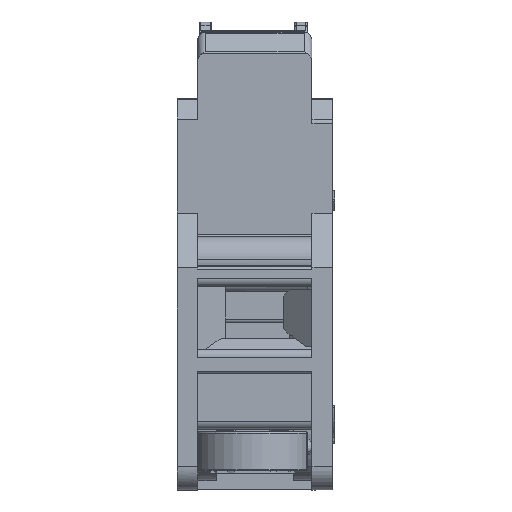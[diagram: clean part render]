
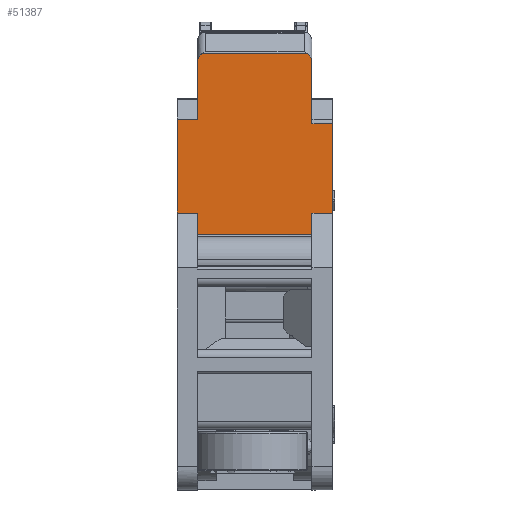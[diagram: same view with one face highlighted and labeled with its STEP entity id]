
A CAD part, left-side view. The second image highlights one B-rep face of the part: STEP entity #51387.
In plain terms, the highlighted planar face has unit normal (-1, 0, 0).
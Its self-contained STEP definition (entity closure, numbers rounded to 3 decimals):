
#455 = CARTESIAN_POINT ( 'NONE',  ( -22.144, -3.369, 35.78 ) ) ;
#809 = CARTESIAN_POINT ( 'NONE',  ( -22.144, -10.669, 35.777 ) ) ;
#1107 = CARTESIAN_POINT ( 'NONE',  ( -22.144, -10.669, 32.054 ) ) ;
#1110 = ORIENTED_EDGE ( 'NONE', *, *, #46424, .F. ) ;
#1738 = ORIENTED_EDGE ( 'NONE', *, *, #33589, .T. ) ;
#2279 = VERTEX_POINT ( 'NONE', #40409 ) ;
#2623 = AXIS2_PLACEMENT_3D ( 'NONE', #52081, #15078, #20722 ) ;
#2630 = DIRECTION ( 'NONE',  ( 0., -1., 0. ) ) ;
#3166 = LINE ( 'NONE', #57440, #6859 ) ;
#3178 = VERTEX_POINT ( 'NONE', #69064 ) ;
#4196 = CARTESIAN_POINT ( 'NONE',  ( -22.144, -12.229, 26.054 ) ) ;
#4233 = EDGE_CURVE ( 'NONE', #24097, #10851, #13212, .T. ) ;
#4670 = CARTESIAN_POINT ( 'NONE',  ( -22.144, -3.474, 36.042 ) ) ;
#5028 = CARTESIAN_POINT ( 'NONE',  ( -22.144, -3.511, 36.104 ) ) ;
#5360 = CARTESIAN_POINT ( 'NONE',  ( -22.144, -3.456, 36.008 ) ) ;
#6230 = CARTESIAN_POINT ( 'NONE',  ( -22.144, -3.369, 32.054 ) ) ;
#6702 = VERTEX_POINT ( 'NONE', #42897 ) ;
#6859 = VECTOR ( 'NONE', #52519, 1000. ) ;
#7331 = LINE ( 'NONE', #65863, #15584 ) ;
#7351 = CARTESIAN_POINT ( 'NONE',  ( -22.144, -10.669, 35.611 ) ) ;
#7855 = DIRECTION ( 'NONE',  ( 0., 0., -1. ) ) ;
#9076 = FACE_OUTER_BOUND ( 'NONE', #13271, .T. ) ;
#9504 = LINE ( 'NONE', #4196, #54012 ) ;
#10309 = CARTESIAN_POINT ( 'NONE',  ( -22.144, -3.496, 36.08 ) ) ;
#10851 = VERTEX_POINT ( 'NONE', #66736 ) ;
#11008 = CARTESIAN_POINT ( 'NONE',  ( -22.145, -3.411, 35.907 ) ) ;
#11163 = DIRECTION ( 'NONE',  ( 0., 0., -1. ) ) ;
#13104 = B_SPLINE_CURVE_WITH_KNOTS ( 'NONE', 3,
 ( #16312, #455, #11008, #37095, #5360, #58591, #4670, #10309, #5028, #68828, #63880, #37816 ),
 .UNSPECIFIED., .F., .F.,
 ( 4, 2, 2, 2, 2, 4 ),
 ( 0., 0.5, 0.562, 0.625, 0.75, 1. ),
 .UNSPECIFIED. ) ;
#13212 = LINE ( 'NONE', #67133, #67154 ) ;
#13271 = EDGE_LOOP ( 'NONE', ( #45831, #29413, #34434, #59305, #1110, #63022, #64123, #41500, #1738, #61066, #50166, #64514, #55242, #62019 ) ) ;
#13879 = CARTESIAN_POINT ( 'NONE',  ( -22.144, -10.669, 31.754 ) ) ;
#15078 = DIRECTION ( 'NONE',  ( -1., 0., 0. ) ) ;
#15584 = VECTOR ( 'NONE', #24236, 1000. ) ;
#16312 = CARTESIAN_POINT ( 'NONE',  ( -22.144, -3.369, 35.611 ) ) ;
#16457 = CARTESIAN_POINT ( 'NONE',  ( -22.144, -10.669, 32.054 ) ) ;
#17200 = VECTOR ( 'NONE', #7855, 1000. ) ;
#17958 = VERTEX_POINT ( 'NONE', #52810 ) ;
#18109 = LINE ( 'NONE', #51568, #50808 ) ;
#18240 = VECTOR ( 'NONE', #11163, 1000. ) ;
#19035 = CARTESIAN_POINT ( 'NONE',  ( -22.144, -11.969, 26.054 ) ) ;
#19890 = CARTESIAN_POINT ( 'NONE',  ( -22.144, -3.369, 32.054 ) ) ;
#19999 = VERTEX_POINT ( 'NONE', #59005 ) ;
#20526 = VERTEX_POINT ( 'NONE', #37660 ) ;
#20722 = DIRECTION ( 'NONE',  ( 0., 0., 1. ) ) ;
#21468 = CARTESIAN_POINT ( 'NONE',  ( -22.144, -10.669, 31.754 ) ) ;
#21506 = CARTESIAN_POINT ( 'NONE',  ( -22.144, -2.069, 32.054 ) ) ;
#24014 = VECTOR ( 'NONE', #38830, 1000. ) ;
#24097 = VERTEX_POINT ( 'NONE', #45287 ) ;
#24236 = DIRECTION ( 'NONE',  ( 0., 1., 0. ) ) ;
#25686 = LINE ( 'NONE', #58810, #53068 ) ;
#26552 = CARTESIAN_POINT ( 'NONE',  ( -22.147, -10.524, 36.12 ) ) ;
#26710 = VERTEX_POINT ( 'NONE', #29633 ) ;
#28672 = VECTOR ( 'NONE', #53907, 1000. ) ;
#29410 = VERTEX_POINT ( 'NONE', #21506 ) ;
#29413 = ORIENTED_EDGE ( 'NONE', *, *, #56893, .F. ) ;
#29633 = CARTESIAN_POINT ( 'NONE',  ( -22.144, -11.969, 31.754 ) ) ;
#30081 = DIRECTION ( 'NONE',  ( 0., 0., -1. ) ) ;
#30581 = PLANE ( 'NONE',  #2623 ) ;
#31370 = LINE ( 'NONE', #41969, #28672 ) ;
#32386 = LINE ( 'NONE', #21468, #67665 ) ;
#32823 = VERTEX_POINT ( 'NONE', #7351 ) ;
#33589 = EDGE_CURVE ( 'NONE', #65862, #29410, #31370, .T. ) ;
#34182 = VECTOR ( 'NONE', #49231, 1000. ) ;
#34434 = ORIENTED_EDGE ( 'NONE', *, *, #56127, .T. ) ;
#36617 = EDGE_CURVE ( 'NONE', #6702, #2279, #3166, .T. ) ;
#37095 = CARTESIAN_POINT ( 'NONE',  ( -22.144, -3.452, 35.999 ) ) ;
#37660 = CARTESIAN_POINT ( 'NONE',  ( -22.144, -10.406, 36.231 ) ) ;
#37816 = CARTESIAN_POINT ( 'NONE',  ( -22.144, -3.632, 36.231 ) ) ;
#37916 = VERTEX_POINT ( 'NONE', #13879 ) ;
#37962 = LINE ( 'NONE', #6230, #18240 ) ;
#38830 = DIRECTION ( 'NONE',  ( 0., 0., 1. ) ) ;
#38873 = CARTESIAN_POINT ( 'NONE',  ( -22.148, -10.628, 35.915 ) ) ;
#39950 = CARTESIAN_POINT ( 'NONE',  ( -22.144, -2.069, 32.054 ) ) ;
#40059 = EDGE_CURVE ( 'NONE', #2279, #19999, #59778, .T. ) ;
#40409 = CARTESIAN_POINT ( 'NONE',  ( -22.144, -10.669, 24.679 ) ) ;
#41500 = ORIENTED_EDGE ( 'NONE', *, *, #59363, .T. ) ;
#41969 = CARTESIAN_POINT ( 'NONE',  ( -22.144, -7.019, 32.054 ) ) ;
#42139 = EDGE_CURVE ( 'NONE', #37916, #32823, #44475, .T. ) ;
#42897 = CARTESIAN_POINT ( 'NONE',  ( -22.144, -3.369, 24.679 ) ) ;
#44139 = EDGE_CURVE ( 'NONE', #17958, #3178, #13104, .T. ) ;
#44475 = LINE ( 'NONE', #1107, #24014 ) ;
#45287 = CARTESIAN_POINT ( 'NONE',  ( -22.144, -2.069, 26.054 ) ) ;
#45831 = ORIENTED_EDGE ( 'NONE', *, *, #67191, .F. ) ;
#46424 = EDGE_CURVE ( 'NONE', #20526, #32823, #58148, .T. ) ;
#48054 = CARTESIAN_POINT ( 'NONE',  ( -22.144, -10.669, 35.611 ) ) ;
#49115 = CARTESIAN_POINT ( 'NONE',  ( -22.144, -10.406, 36.231 ) ) ;
#49231 = DIRECTION ( 'NONE',  ( 0., 0., 1. ) ) ;
#50131 = EDGE_CURVE ( 'NONE', #29410, #24097, #55109, .T. ) ;
#50166 = ORIENTED_EDGE ( 'NONE', *, *, #4233, .T. ) ;
#50740 = VERTEX_POINT ( 'NONE', #19035 ) ;
#50808 = VECTOR ( 'NONE', #30081, 1000. ) ;
#51387 = ADVANCED_FACE ( 'NONE', ( #9076 ), #30581, .T. ) ;
#51568 = CARTESIAN_POINT ( 'NONE',  ( -22.144, -3.369, 32.054 ) ) ;
#52081 = CARTESIAN_POINT ( 'NONE',  ( -22.144, -10.669, 32.054 ) ) ;
#52519 = DIRECTION ( 'NONE',  ( 0., -1., 0. ) ) ;
#52810 = CARTESIAN_POINT ( 'NONE',  ( -22.144, -3.369, 35.611 ) ) ;
#53068 = VECTOR ( 'NONE', #69713, 1000. ) ;
#53907 = DIRECTION ( 'NONE',  ( 0., 1., 0. ) ) ;
#54012 = VECTOR ( 'NONE', #58830, 1000. ) ;
#55109 = LINE ( 'NONE', #39950, #17200 ) ;
#55242 = ORIENTED_EDGE ( 'NONE', *, *, #36617, .T. ) ;
#56127 = EDGE_CURVE ( 'NONE', #26710, #37916, #32386, .T. ) ;
#56893 = EDGE_CURVE ( 'NONE', #26710, #50740, #25686, .T. ) ;
#57440 = CARTESIAN_POINT ( 'NONE',  ( -22.144, -7.019, 24.679 ) ) ;
#58148 = B_SPLINE_CURVE_WITH_KNOTS ( 'NONE', 3,
 ( #49115, #59311, #26552, #38873, #809, #48054 ),
 .UNSPECIFIED., .F., .F.,
 ( 4, 2, 4 ),
 ( 0., 0.5, 1. ),
 .UNSPECIFIED. ) ;
#58591 = CARTESIAN_POINT ( 'NONE',  ( -22.144, -3.465, 36.026 ) ) ;
#58810 = CARTESIAN_POINT ( 'NONE',  ( -22.144, -11.969, 32.054 ) ) ;
#58830 = DIRECTION ( 'NONE',  ( 0., 1., 0. ) ) ;
#59005 = CARTESIAN_POINT ( 'NONE',  ( -22.144, -10.669, 26.054 ) ) ;
#59305 = ORIENTED_EDGE ( 'NONE', *, *, #42139, .T. ) ;
#59311 = CARTESIAN_POINT ( 'NONE',  ( -22.144, -10.461, 36.189 ) ) ;
#59363 = EDGE_CURVE ( 'NONE', #17958, #65862, #18109, .T. ) ;
#59778 = LINE ( 'NONE', #16457, #34182 ) ;
#61066 = ORIENTED_EDGE ( 'NONE', *, *, #50131, .T. ) ;
#62019 = ORIENTED_EDGE ( 'NONE', *, *, #40059, .T. ) ;
#63022 = ORIENTED_EDGE ( 'NONE', *, *, #64317, .T. ) ;
#63880 = CARTESIAN_POINT ( 'NONE',  ( -22.144, -3.596, 36.203 ) ) ;
#64123 = ORIENTED_EDGE ( 'NONE', *, *, #44139, .F. ) ;
#64317 = EDGE_CURVE ( 'NONE', #20526, #3178, #7331, .T. ) ;
#64514 = ORIENTED_EDGE ( 'NONE', *, *, #69485, .T. ) ;
#64822 = DIRECTION ( 'NONE',  ( 0., 1., 0. ) ) ;
#65862 = VERTEX_POINT ( 'NONE', #19890 ) ;
#65863 = CARTESIAN_POINT ( 'NONE',  ( -22.144, -7.019, 36.231 ) ) ;
#66736 = CARTESIAN_POINT ( 'NONE',  ( -22.144, -3.369, 26.054 ) ) ;
#67133 = CARTESIAN_POINT ( 'NONE',  ( -22.144, -3.629, 26.054 ) ) ;
#67154 = VECTOR ( 'NONE', #2630, 1000. ) ;
#67191 = EDGE_CURVE ( 'NONE', #50740, #19999, #9504, .T. ) ;
#67665 = VECTOR ( 'NONE', #64822, 1000. ) ;
#68828 = CARTESIAN_POINT ( 'NONE',  ( -22.144, -3.561, 36.168 ) ) ;
#69064 = CARTESIAN_POINT ( 'NONE',  ( -22.144, -3.632, 36.231 ) ) ;
#69485 = EDGE_CURVE ( 'NONE', #10851, #6702, #37962, .T. ) ;
#69713 = DIRECTION ( 'NONE',  ( 0., 0., -1. ) ) ;
